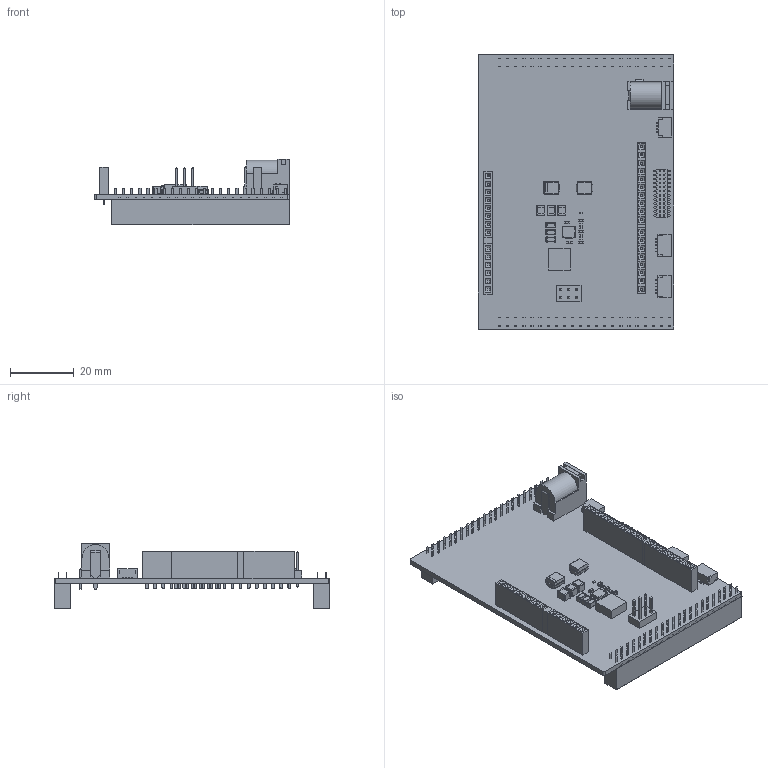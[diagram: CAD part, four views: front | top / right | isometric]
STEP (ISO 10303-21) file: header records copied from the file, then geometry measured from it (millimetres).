
FILE_DESCRIPTION(('Open CASCADE Model'),'2;1');
FILE_NAME('Open CASCADE Shape Model','2024-12-25T21:11:56',('Author'),( 'Open CASCADE'),'Open CASCADE STEP processor 7.5','Open CASCADE 7.5' ,'Unknown');
FILE_SCHEMA(('AUTOMOTIVE_DESIGN { 1 0 10303 214 1 1 1 1 }'));
Length unit declared in the file: millimetre
Products named in the file (65): PCB; Board; Open CASCADE STEP translator 7.5 1.1.1; D2; 897831424; Body; Open CASCADE STEP translator 6.8 20.1.1; Lead; D1; 897827184; 1174605696; Extruded; C4; CAP-1210; U1; RAA211450GNP; Component1; Open CASCADE STEP translator 7.5 1.5.1.2; R1; RES-0402; R6; R5; R3; R2; L2; 1174604496; C7; CAP-0603; C6; C5; C13; C12; C11; C10; CAP-1206; C9; C8; C1; J6; 10166143-00024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
Assembly tree (81 placements, depth 5):
  PCB
    Board
      Open CASCADE STEP translator 7.5 1.1.1
    D2
      897831424
        Body
          Open CASCADE STEP translator 6.8 20.1.1
        Lead  x2
    D1
      897827184
        Body
          Open CASCADE STEP translator 6.8 20.1.1
        Lead  x2
      1174605696
        Extruded
    C4
      CAP-1210
    U1
      RAA211450GNP
        Component1
        Open CASCADE STEP translator 7.5 1.5.1.2
    R1
      RES-0402
    R6
      RES-0402
    R5
      RES-0402
    R3
      RES-0402
    R2
      RES-0402
    L2
      1174604496
        Extruded
    C7
      CAP-0603
    C6
      CAP-1210
    C5
      CAP-1210
    C13
      CAP-0603
    C12
      CAP-0603
    C11
      CAP-0603
    C10
      CAP-1206
    C9
      CAP-1206
    C8
      CAP-1206
    C1
      CAP-0603
    J6
      10166143-00024
    JANALOG
      Header_Fem_1X6_digikey
      Header _Fem_1X8
      1174602656
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Bounding box: 61.28 x 86.52 x 20.7 mm (x, y, z)
Volume: 16357.8 mm3; surface area: 20829.7 mm2
Topology: 52 solids, 53 shells, 5015 faces, 12124 edges, 7450 vertices
Faces by surface type: plane 4080, cylinder 573, bspline 252, sphere 108, cone 2
Full cylindrical faces by diameter (mm): 0.25 x1
Entity records: 100831 total; most frequent: CARTESIAN_POINT 20204, ORIENTED_EDGE 15580, DIRECTION 14160, EDGE_CURVE 7790, LINE 6858, VECTOR 6858, VERTEX_POINT 4862, AXIS2_PLACEMENT_3D 3651
